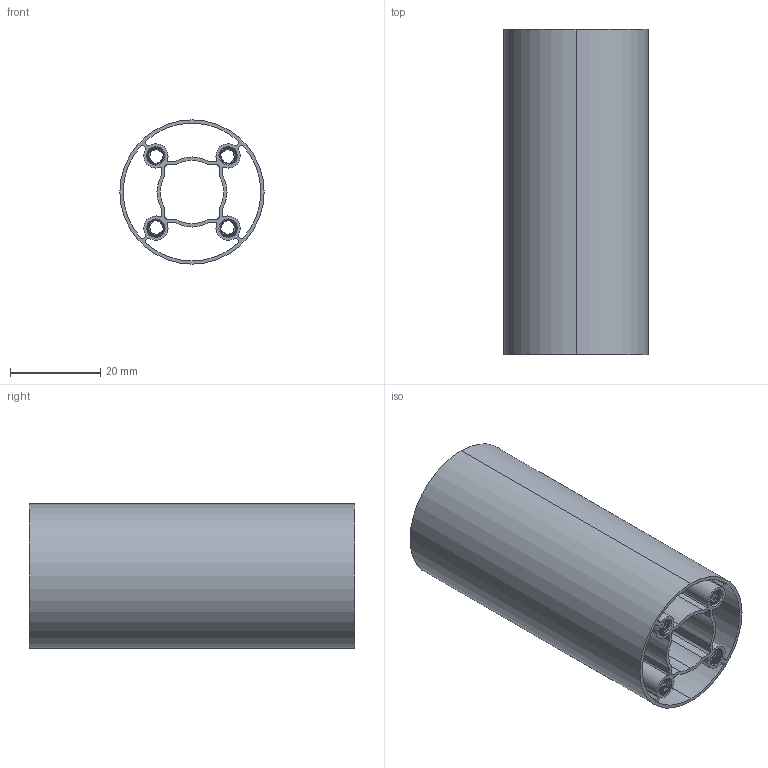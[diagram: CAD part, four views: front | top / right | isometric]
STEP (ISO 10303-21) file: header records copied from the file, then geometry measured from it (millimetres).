
FILE_DESCRIPTION (( 'STEP AP203' ), '1' );
FILE_NAME ('4103-0032-0072.STEP', '2022-09-14T13:46:12', ( '' ), ( '' ), 'SwSTEP 2.0', 'SolidWorks 2016', '' );
FILE_SCHEMA (( 'CONFIG_CONTROL_DESIGN' ));
Length unit declared in the file: millimetre
Products named in the file (1): 4103-0032-0072
Bounding box: 31.95 x 72 x 31.95 mm (x, y, z)
Volume: 12041.7 mm3; surface area: 29489.8 mm2
Topology: 1 solids, 1 shells, 781 faces, 2333 edges, 1554 vertices
Faces by surface type: cylinder 711, plane 34, cone 20, bspline 16
Entity records: 50002 total; most frequent: CARTESIAN_POINT 32717, ORIENTED_EDGE 4666, DIRECTION 2715, EDGE_CURVE 2333, VERTEX_POINT 1554, AXIS2_PLACEMENT_3D 960, EDGE_LOOP 799, VECTOR 795
